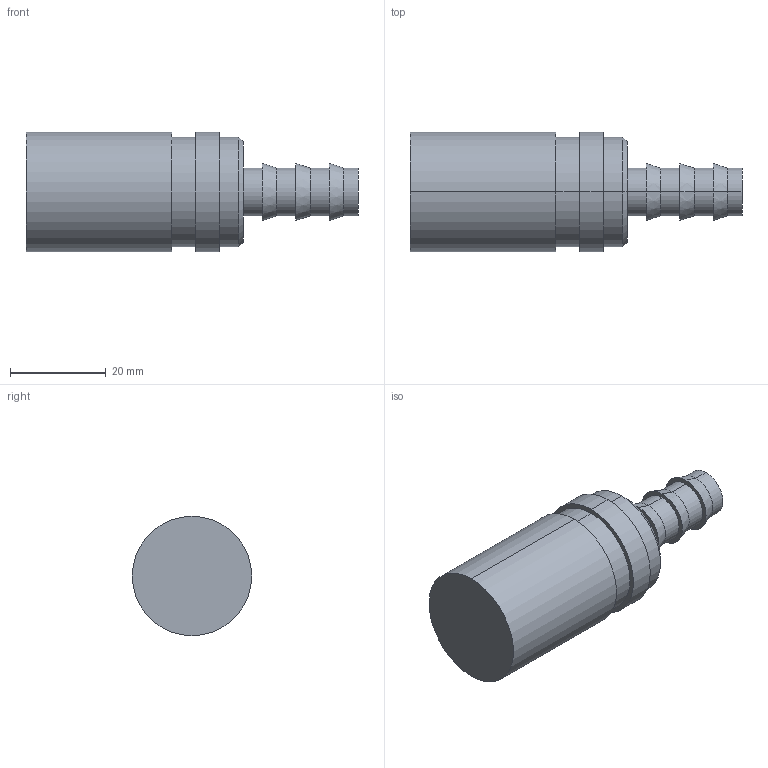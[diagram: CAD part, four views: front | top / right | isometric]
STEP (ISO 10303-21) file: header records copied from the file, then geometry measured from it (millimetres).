
FILE_DESCRIPTION (( 'STEP AP214' ), '1' );
FILE_NAME ('BR601.09 FGB 10.STEP', '2020-12-02T13:56:12', ( '' ), ( '' ), 'SwSTEP 2.0', 'SolidWorks 2018', '' );
FILE_SCHEMA (( 'AUTOMOTIVE_DESIGN' ));
Length unit declared in the file: millimetre
Products named in the file (1): BR601.09 FGB 10
Bounding box: 69.5 x 25 x 25 mm (x, y, z)
Volume: 23581.4 mm3; surface area: 5502.4 mm2
Topology: 1 solids, 1 shells, 33 faces, 64 edges, 40 vertices
Faces by surface type: cylinder 16, plane 9, cone 8
Entity records: 888 total; most frequent: DIRECTION 172, CARTESIAN_POINT 138, ORIENTED_EDGE 128, AXIS2_PLACEMENT_3D 74, EDGE_CURVE 64, CIRCLE 40, EDGE_LOOP 40, VERTEX_POINT 40
